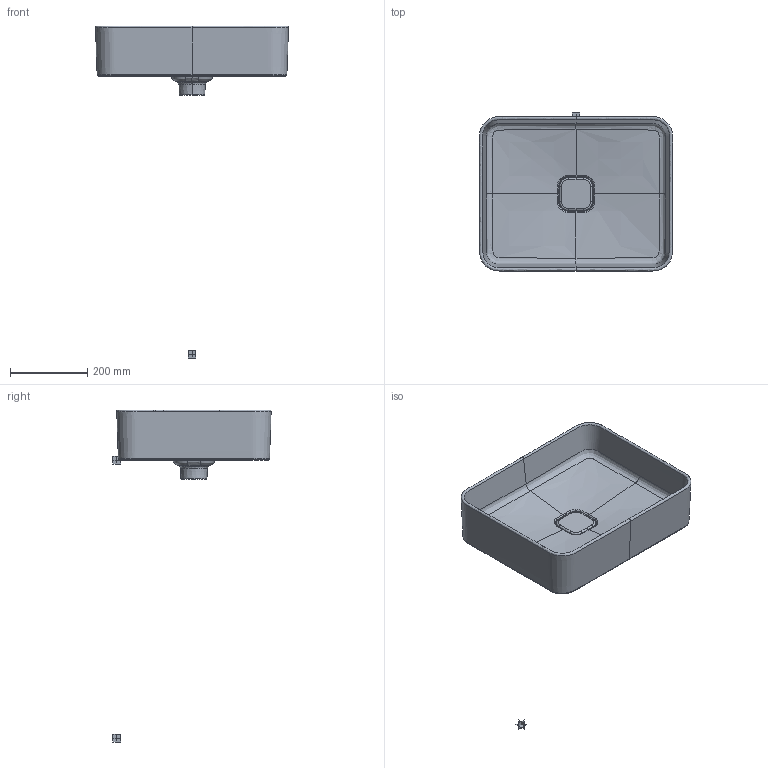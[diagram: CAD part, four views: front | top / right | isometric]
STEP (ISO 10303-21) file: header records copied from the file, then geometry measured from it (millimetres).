
FILE_DESCRIPTION((''),'2;1');
FILE_NAME('T2967_3DPL','2017-08-23T',('KarakolevP'),('AMERICAN STANDARD B&K'),'CREO PARAMETRIC BY PTC INC, 2016130','CREO PARAMETRIC BY PTC INC, 2016130','');
FILE_SCHEMA(('CONFIG_CONTROL_DESIGN'));
Products named in the file (1): T2967_3DPL
Bounding box: 500 x 410 x 860 mm (x, y, z)
Volume: 8606290.4 mm3; surface area: 761927.4 mm2
Topology: 2 solids, 8 shells, 105 faces, 239 edges, 145 vertices
Faces by surface type: bspline 80, plane 14, cylinder 4, extrusion 3, cone 2, torus 2
Entity records: 39458 total; most frequent: CARTESIAN_POINT 37619, ORIENTED_EDGE 454, EDGE_CURVE 239, DIRECTION 195, VERTEX_POINT 145, B_SPLINE_CURVE_WITH_KNOTS 137, EDGE_LOOP 106, FACE_OUTER_BOUND 105
